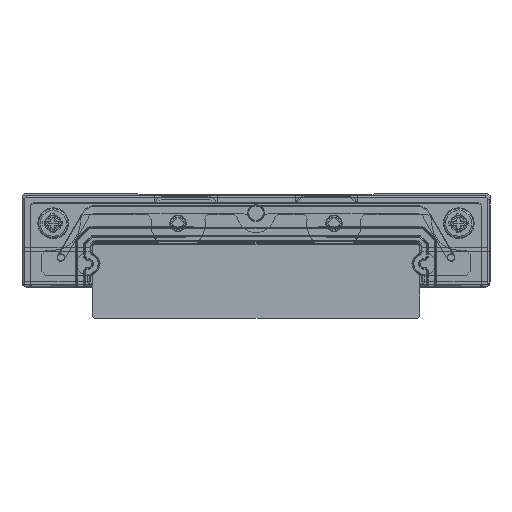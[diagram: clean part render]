
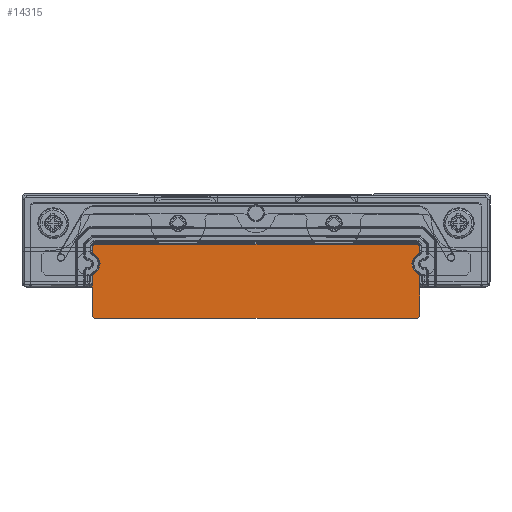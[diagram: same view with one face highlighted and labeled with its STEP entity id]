
A CAD part, left-side view. The second image highlights one B-rep face of the part: STEP entity #14315.
In plain terms, the highlighted planar face has unit normal (-1, 0, 0).
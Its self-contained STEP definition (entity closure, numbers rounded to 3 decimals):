
#9=DIRECTION('',(0.,-1.,0.));
#10=VECTOR('',#9,41.4);
#11=CARTESIAN_POINT('',(43.283,20.7,-7.));
#12=LINE('',#11,#10);
#1017=DIRECTION('',(0.,-0.707,0.707));
#1018=VECTOR('',#1017,0.424);
#1019=CARTESIAN_POINT('',(43.283,-20.7,-7.));
#1020=LINE('',#1019,#1018);
#1041=DIRECTION('',(0.,0.707,0.707));
#1042=VECTOR('',#1041,0.424);
#1043=CARTESIAN_POINT('',(43.283,-20.98,2.2));
#1044=LINE('',#1043,#1042);
#1053=DIRECTION('',(0.,1.,0.));
#1054=VECTOR('',#1053,41.36);
#1055=CARTESIAN_POINT('',(43.283,-20.68,2.5));
#1056=LINE('',#1055,#1054);
#3057=DIRECTION('',(0.,0.707,-0.707));
#3058=VECTOR('',#3057,0.424);
#3059=CARTESIAN_POINT('',(43.283,20.68,2.5));
#3060=LINE('',#3059,#3058);
#3065=DIRECTION('',(0.,0.,-1.));
#3066=VECTOR('',#3065,0.781);
#3067=CARTESIAN_POINT('',(43.283,20.98,2.2));
#3068=LINE('',#3067,#3066);
#3081=DIRECTION('',(0.,0.,-1.));
#3082=VECTOR('',#3081,5.267);
#3083=CARTESIAN_POINT('',(43.283,21.,-1.433));
#3084=LINE('',#3083,#3082);
#3089=DIRECTION('',(0.,-0.707,-0.707));
#3090=VECTOR('',#3089,0.424);
#3091=CARTESIAN_POINT('',(43.283,21.,-6.7));
#3092=LINE('',#3091,#3090);
#3161=DIRECTION('',(0.,0.,-1.));
#3162=VECTOR('',#3161,0.775);
#3163=CARTESIAN_POINT('',(43.283,-20.98,2.2));
#3164=LINE('',#3163,#3162);
#3165=CARTESIAN_POINT('',(43.283,-20.98,1.425));
#3166=CARTESIAN_POINT('',(43.283,-20.773,1.337));
#3167=CARTESIAN_POINT('',(43.283,-20.426,1.105));
#3168=CARTESIAN_POINT('',(43.283,-20.05,
0.556));
#3169=CARTESIAN_POINT('',(43.283,-19.968,
0.198));
#3170=CARTESIAN_POINT('',(43.283,-19.95,
-0.011));
#3172=CARTESIAN_POINT('',(43.283,-19.95,
-0.011));
#3173=CARTESIAN_POINT('',(43.283,-19.968,
-0.218));
#3174=CARTESIAN_POINT('',(43.283,-20.08,
-0.63));
#3175=CARTESIAN_POINT('',(43.283,-20.477,
-1.15));
#3176=CARTESIAN_POINT('',(43.283,-20.813,
-1.352));
#3177=CARTESIAN_POINT('',(43.283,-21.,-1.428));
#3179=DIRECTION('',(0.,0.,-1.));
#3180=VECTOR('',#3179,5.272);
#3181=CARTESIAN_POINT('',(43.283,-21.,-1.428));
#3182=LINE('',#3181,#3180);
#3183=CARTESIAN_POINT('',(43.283,21.,-1.433));
#3184=CARTESIAN_POINT('',(43.283,20.792,-1.348));
#3185=CARTESIAN_POINT('',(43.283,20.441,-1.118));
#3186=CARTESIAN_POINT('',(43.283,20.061,
-0.582));
#3187=CARTESIAN_POINT('',(43.283,19.968,
-0.208));
#3188=CARTESIAN_POINT('',(43.283,19.95,0.008));
#3190=CARTESIAN_POINT('',(43.283,19.95,0.008));
#3191=CARTESIAN_POINT('',(43.283,19.967,0.219));
#3192=CARTESIAN_POINT('',(43.283,20.079,0.628));
#3193=CARTESIAN_POINT('',(43.283,20.481,1.153));
#3194=CARTESIAN_POINT('',(43.283,20.804,1.344));
#3195=CARTESIAN_POINT('',(43.283,20.98,1.419));
#9602=CARTESIAN_POINT('',(43.283,-20.7,-7.));
#9604=VERTEX_POINT('',#9602);
#9607=CARTESIAN_POINT('',(43.283,20.7,-7.));
#9608=VERTEX_POINT('',#9607);
#10033=CARTESIAN_POINT('',(43.283,20.68,2.5));
#10035=VERTEX_POINT('',#10033);
#10039=CARTESIAN_POINT('',(43.283,-20.68,2.5));
#10040=VERTEX_POINT('',#10039);
#11262=CARTESIAN_POINT('',(43.283,20.98,2.2));
#11264=VERTEX_POINT('',#11262);
#11266=CARTESIAN_POINT('',(43.283,20.98,1.419));
#11268=VERTEX_POINT('',#11266);
#11270=CARTESIAN_POINT('',(43.283,19.95,
0.008));
#11272=VERTEX_POINT('',#11270);
#11273=CARTESIAN_POINT('',(43.283,21.,-1.433));
#11275=VERTEX_POINT('',#11273);
#11278=CARTESIAN_POINT('',(43.283,21.,-6.7));
#11280=VERTEX_POINT('',#11278);
#11289=CARTESIAN_POINT('',(43.283,-21.,-6.7));
#11290=VERTEX_POINT('',#11289);
#11291=CARTESIAN_POINT('',(43.283,-21.,-1.428));
#11292=VERTEX_POINT('',#11291);
#11293=CARTESIAN_POINT('',(43.283,-19.95,
-0.011));
#11294=VERTEX_POINT('',#11293);
#11295=CARTESIAN_POINT('',(43.283,-20.98,1.425));
#11296=VERTEX_POINT('',#11295);
#11297=CARTESIAN_POINT('',(43.283,-20.98,2.2));
#11298=VERTEX_POINT('',#11297);
#14294=CARTESIAN_POINT('',(43.283,-33.394,2.5));
#14295=DIRECTION('',(1.,0.,0.));
#14296=DIRECTION('',(0.,1.,0.));
#14297=AXIS2_PLACEMENT_3D('',#14294,#14295,#14296);
#14298=PLANE('',#14297);
#14299=ORIENTED_EDGE('',*,*,#13178,.F.);
#14300=ORIENTED_EDGE('',*,*,#13163,.F.);
#14301=ORIENTED_EDGE('',*,*,#13148,.T.);
#14302=ORIENTED_EDGE('',*,*,#13133,.T.);
#14303=ORIENTED_EDGE('',*,*,#13118,.T.);
#14304=ORIENTED_EDGE('',*,*,#13103,.T.);
#14305=ORIENTED_EDGE('',*,*,#13088,.F.);
#14306=ORIENTED_EDGE('',*,*,#12474,.F.);
#14307=ORIENTED_EDGE('',*,*,#14267,.F.);
#14308=ORIENTED_EDGE('',*,*,#14253,.F.);
#14309=ORIENTED_EDGE('',*,*,#14238,.T.);
#14310=ORIENTED_EDGE('',*,*,#14223,.T.);
#14311=ORIENTED_EDGE('',*,*,#14208,.F.);
#14312=ORIENTED_EDGE('',*,*,#14193,.F.);
#14313=EDGE_LOOP('',(#14299,#14300,#14301,#14302,#14303,#14304,#14305,#14306,
#14307,#14308,#14309,#14310,#14311,#14312));
#14314=FACE_OUTER_BOUND('',#14313,.F.);
#14315=ADVANCED_FACE('',(#14314),#14298,.F.);
#3171=B_SPLINE_CURVE_WITH_KNOTS('',3,(#3165,#3166,#3167,#3168,#3169,#3170),
.UNSPECIFIED.,.F.,.F.,(4,1,1,4),(0.,0.333,0.667,1.),
.UNSPECIFIED.);
#3178=B_SPLINE_CURVE_WITH_KNOTS('',3,(#3172,#3173,#3174,#3175,#3176,#3177),
.UNSPECIFIED.,.F.,.F.,(4,1,1,4),(0.,0.333,0.667,1.),
.UNSPECIFIED.);
#3189=B_SPLINE_CURVE_WITH_KNOTS('',3,(#3183,#3184,#3185,#3186,#3187,#3188),
.UNSPECIFIED.,.F.,.F.,(4,1,1,4),(0.,0.333,0.667,1.),
.UNSPECIFIED.);
#3196=B_SPLINE_CURVE_WITH_KNOTS('',3,(#3190,#3191,#3192,#3193,#3194,#3195),
.UNSPECIFIED.,.F.,.F.,(4,1,1,4),(0.,0.333,0.667,1.),
.UNSPECIFIED.);
#12474=EDGE_CURVE('',#9608,#9604,#12,.T.);
#13088=EDGE_CURVE('',#9604,#11290,#1020,.T.);
#13103=EDGE_CURVE('',#11292,#11290,#3182,.T.);
#13118=EDGE_CURVE('',#11294,#11292,#3178,.T.);
#13133=EDGE_CURVE('',#11296,#11294,#3171,.T.);
#13148=EDGE_CURVE('',#11298,#11296,#3164,.T.);
#13163=EDGE_CURVE('',#11298,#10040,#1044,.T.);
#13178=EDGE_CURVE('',#10040,#10035,#1056,.T.);
#14193=EDGE_CURVE('',#10035,#11264,#3060,.T.);
#14208=EDGE_CURVE('',#11264,#11268,#3068,.T.);
#14223=EDGE_CURVE('',#11272,#11268,#3196,.T.);
#14238=EDGE_CURVE('',#11275,#11272,#3189,.T.);
#14253=EDGE_CURVE('',#11275,#11280,#3084,.T.);
#14267=EDGE_CURVE('',#11280,#9608,#3092,.T.);
